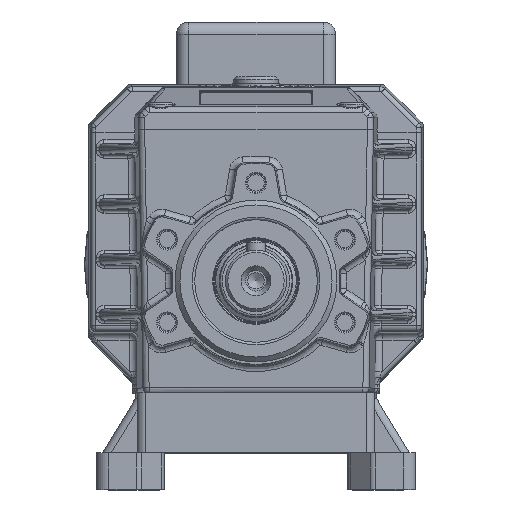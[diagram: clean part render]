
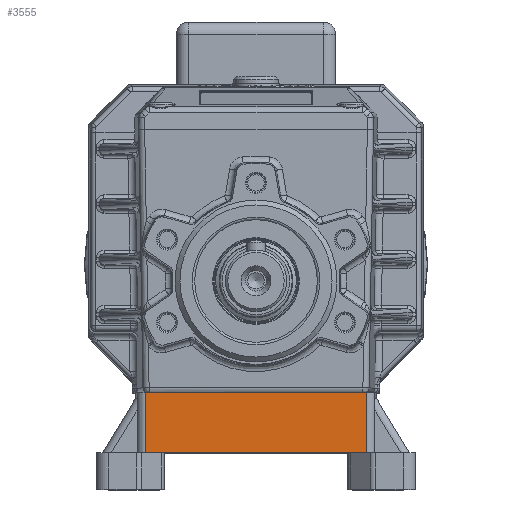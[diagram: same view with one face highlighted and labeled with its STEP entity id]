
A CAD part, top view. The second image highlights one B-rep face of the part: STEP entity #3555.
In plain terms, the highlighted planar face has unit normal (0, 0, 1).
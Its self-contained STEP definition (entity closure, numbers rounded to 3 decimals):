
#3555 = ADVANCED_FACE( '', ( #7516 ), #7517, .T. );
#7516 = FACE_OUTER_BOUND( '', #16865, .T. );
#7517 = PLANE( '', #16866 );
#16865 = EDGE_LOOP( '', ( #27559, #27560, #27561, #27562, #27563, #27564 ) );
#16866 = AXIS2_PLACEMENT_3D( '', #27565, #27566, #27567 );
#27559 = ORIENTED_EDGE( '', *, *, #32779, .F. );
#27560 = ORIENTED_EDGE( '', *, *, #31638, .F. );
#27561 = ORIENTED_EDGE( '', *, *, #31141, .T. );
#27562 = ORIENTED_EDGE( '', *, *, #33700, .T. );
#27563 = ORIENTED_EDGE( '', *, *, #33262, .T. );
#27564 = ORIENTED_EDGE( '', *, *, #31866, .T. );
#27565 = CARTESIAN_POINT( '', ( 44.923, -70., -15.438 ) );
#27566 = DIRECTION( '', ( 0., 0., 1. ) );
#27567 = DIRECTION( '', ( -1., 0., 0. ) );
#31141 = EDGE_CURVE( '', #36781, #36310, #36782, .T. );
#31638 = EDGE_CURVE( '', #36781, #37559, #37562, .T. );
#31866 = EDGE_CURVE( '', #37907, #37905, #37908, .T. );
#32779 = EDGE_CURVE( '', #37559, #37905, #39154, .T. );
#33262 = EDGE_CURVE( '', #34381, #37907, #39768, .T. );
#33700 = EDGE_CURVE( '', #36310, #34381, #40263, .T. );
#34381 = VERTEX_POINT( '', #41304 );
#36310 = VERTEX_POINT( '', #46152 );
#36781 = VERTEX_POINT( '', #47146 );
#36782 = LINE( '', #47147, #47148 );
#37559 = VERTEX_POINT( '', #49128 );
#37562 = LINE( '', #49132, #49133 );
#37905 = VERTEX_POINT( '', #50064 );
#37907 = VERTEX_POINT( '', #50066 );
#37908 = LINE( '', #50067, #50068 );
#39154 = LINE( '', #53191, #53192 );
#39768 = LINE( '', #54660, #54661 );
#40263 = LINE( '', #55717, #55718 );
#41304 = CARTESIAN_POINT( '', ( 37.5, -70., -15.438 ) );
#46152 = CARTESIAN_POINT( '', ( -37.5, -70., -15.438 ) );
#47146 = CARTESIAN_POINT( '', ( -44.923, -70., -15.438 ) );
#47147 = CARTESIAN_POINT( '', ( 44.923, -70., -15.438 ) );
#47148 = VECTOR( '', #57957, 1000. );
#49128 = CARTESIAN_POINT( '', ( -44.923, -45.5, -15.438 ) );
#49132 = CARTESIAN_POINT( '', ( -44.923, -70., -15.438 ) );
#49133 = VECTOR( '', #58444, 1000. );
#50064 = CARTESIAN_POINT( '', ( 44.923, -45.5, -15.438 ) );
#50066 = CARTESIAN_POINT( '', ( 44.923, -70., -15.438 ) );
#50067 = CARTESIAN_POINT( '', ( 44.923, -70., -15.438 ) );
#50068 = VECTOR( '', #58686, 1000. );
#53191 = CARTESIAN_POINT( '', ( 44.923, -45.5, -15.438 ) );
#53192 = VECTOR( '', #59540, 1000. );
#54660 = CARTESIAN_POINT( '', ( 44.923, -70., -15.438 ) );
#54661 = VECTOR( '', #60018, 1000. );
#55717 = CARTESIAN_POINT( '', ( 44.923, -70., -15.438 ) );
#55718 = VECTOR( '', #60331, 1000. );
#57957 = DIRECTION( '', ( 1., 0., 0. ) );
#58444 = DIRECTION( '', ( 0., 1., 0. ) );
#58686 = DIRECTION( '', ( 0., 1., 0. ) );
#59540 = DIRECTION( '', ( 1., 0., 0. ) );
#60018 = DIRECTION( '', ( 1., 0., 0. ) );
#60331 = DIRECTION( '', ( 1., 0., 0. ) );
